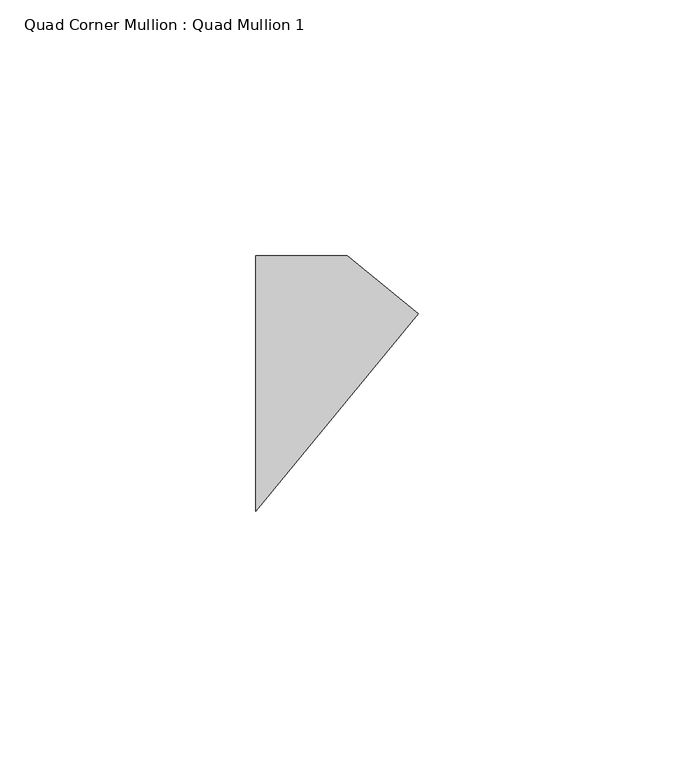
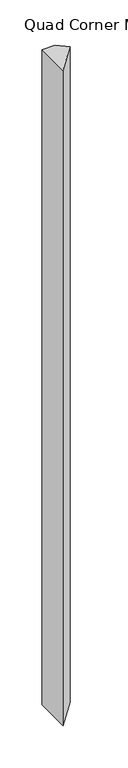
"""IFC4 building model written with IfcOpenShell, lengths in millimetres: member geometry, Quad Corner Mullion : Quad Mullion 1."""

import ifcopenshell
import ifcopenshell.guid

model = None  # the IFC model being written
_history = None  # IfcOwnerHistory: only IFC2X3 demands one
_inside = {}  # id of a spatial element -> (the spatial element, [elements in it])
_under = {}  # id of a project, library or spatial element -> (it, [spatial elements below it])
_declared = {}  # id of a project -> (the project, [libraries it declares])
_typed = {}  # id of a type object -> (the type object, [elements of that type])
_made_of = {}  # id of a material, layer set ... -> (it, [elements and type objects made of it])


def new_model(schema):
    """Start an empty IFC model of exactly this schema.

    Asked for "IFC4X3", IfcOpenShell would pick the latest addendum, in which some entities
    have other attributes; the version numbers below select the first issue.
    IFC2X3 requires an IfcOwnerHistory on every rooted entity: one is made here for all.
    """
    global model, _history
    if schema == "IFC4X3":
        model = ifcopenshell.file(schema_version=(4, 3, 0, 0))
    else:
        model = ifcopenshell.file(schema=schema)
    _inside.clear()
    _under.clear()
    _declared.clear()
    _typed.clear()
    _made_of.clear()
    _history = None
    if model.schema == "IFC2X3":
        org = make("IfcOrganization", Name="unknown")
        user = make(
            "IfcPersonAndOrganization",
            ThePerson=make("IfcPerson", FamilyName="unknown"),
            TheOrganization=org,
        )
        app = make(
            "IfcApplication",
            ApplicationDeveloper=org,
            Version="unknown",
            ApplicationFullName="unknown",
            ApplicationIdentifier="unknown",
        )
        _history = make(
            "IfcOwnerHistory",
            OwningUser=user,
            OwningApplication=app,
            ChangeAction="ADDED",
            CreationDate=0,
        )
    return model


def make(cls, **values):
    """One entity of the class cls with the attributes given. An attribute that is None is left unset."""
    return model.create_entity(
        cls, **{name: value for name, value in values.items() if value is not None}
    )


def rooted(cls, **values):
    """An entity with a GlobalId (a new one), such as an element, a storey or a relation."""
    return make(cls, GlobalId=ifcopenshell.guid.new(), OwnerHistory=_history, **values)


def si_unit(unit_type, name, prefix=None):
    """IfcSIUnit, for example si_unit("LENGTHUNIT", "METRE", prefix="MILLI")."""
    return make("IfcSIUnit", UnitType=unit_type, Prefix=prefix, Name=name)


def assignment(units):
    """IfcUnitAssignment: the units of a project."""
    return None if units is None else make("IfcUnitAssignment", Units=units)


def point(xyz):
    """IfcCartesianPoint."""
    return None if xyz is None else make("IfcCartesianPoint", Coordinates=xyz)


def direction(xyz):
    """IfcDirection."""
    return None if xyz is None else make("IfcDirection", DirectionRatios=xyz)


def frame(location, z_axis=None, x_axis=None):
    """IfcAxis2Placement3D, a coordinate frame: its origin and axes. An axis left out is left unset."""
    return make(
        "IfcAxis2Placement3D",
        Location=point(location),
        Axis=direction(z_axis),
        RefDirection=direction(x_axis),
    )


def origin():
    """The frame at (0, 0, 0) with its axes left unset."""
    return frame((0.0, 0.0, 0.0))


def place(relative_to, where):
    """IfcLocalPlacement: puts the frame where relative to a parent placement (None: the world)."""
    return make(
        "IfcLocalPlacement", PlacementRelTo=relative_to, RelativePlacement=where
    )


def context(
    kind, dimensions, precision=None, world=None, true_north=None, identifier=None
):
    """IfcGeometricRepresentationContext, for example the 3D "Model" context."""
    return make(
        "IfcGeometricRepresentationContext",
        ContextIdentifier=identifier,
        ContextType=kind,
        CoordinateSpaceDimension=dimensions,
        Precision=precision,
        WorldCoordinateSystem=world,
        TrueNorth=true_north,
    )


def project(units=None, contexts=None):
    """IfcProject with its units and contexts."""
    return rooted(
        "IfcProject",
        Name="project",
        RepresentationContexts=contexts,
        UnitsInContext=assignment(units),
    )


def spatial(cls, under=None, at=None, **own):
    """A site, building, storey or space (cls), placed at a placement, below another one or the project."""
    s = rooted(cls, ObjectPlacement=at, **own)
    if under is not None:
        _under.setdefault(under.id(), (under, []))[1].append(s)
    return s


def polyline(points):
    """IfcPolyline through the points."""
    return make("IfcPolyline", Points=[point(p) for p in points])


def outline(outer, holes=None, kind="AREA"):
    """IfcArbitraryClosedProfileDef: a profile drawn as a closed curve; with holes, ...WithVoids."""
    if holes is None:
        return make("IfcArbitraryClosedProfileDef", ProfileType=kind, OuterCurve=outer)
    return make(
        "IfcArbitraryProfileDefWithVoids",
        ProfileType=kind,
        OuterCurve=outer,
        InnerCurves=holes,
    )


def extrude(swept, where, along, depth):
    """IfcExtrudedAreaSolid: the profile swept, set in the frame where, extruded along a direction by depth."""
    return make(
        "IfcExtrudedAreaSolid",
        SweptArea=swept,
        Position=where,
        ExtrudedDirection=direction(along),
        Depth=depth,
    )


def shape(context_of_items, identifier, shape_type, items):
    """IfcShapeRepresentation: the items that make up one representation, for example the "Body"."""
    return make(
        "IfcShapeRepresentation",
        ContextOfItems=context_of_items,
        RepresentationIdentifier=identifier,
        RepresentationType=shape_type,
        Items=items,
    )


def source(mapping_origin, context_of_items, identifier, shape_type, items):
    """IfcRepresentationMap: a shape defined once, which mapped items show again and again."""
    return make(
        "IfcRepresentationMap",
        MappingOrigin=mapping_origin,
        MappedRepresentation=shape(context_of_items, identifier, shape_type, items),
    )


def transform(
    local_origin,
    x_axis=None,
    y_axis=None,
    z_axis=None,
    scale=None,
    scale2=None,
    scale3=None,
    uniform=True,
):
    """IfcCartesianTransformationOperator3D, or its non-uniform kind. x_axis, y_axis, z_axis: its Axis1, 2, 3."""
    if uniform:
        return make(
            "IfcCartesianTransformationOperator3D",
            Axis1=direction(x_axis),
            Axis2=direction(y_axis),
            LocalOrigin=point(local_origin),
            Scale=scale,
            Axis3=direction(z_axis),
        )
    return make(
        "IfcCartesianTransformationOperator3DnonUniform",
        Axis1=direction(x_axis),
        Axis2=direction(y_axis),
        LocalOrigin=point(local_origin),
        Scale=scale,
        Axis3=direction(z_axis),
        Scale2=scale2,
        Scale3=scale3,
    )


def mapped(mapping_source, mapping_target):
    """IfcMappedItem: shows the shape of a source again, moved by a transform."""
    return make(
        "IfcMappedItem", MappingSource=mapping_source, MappingTarget=mapping_target
    )


def made_of(thing, what):
    """Note that an element or type object is made of a material, layer set ...; save() writes the relation."""
    if what is not None:
        _made_of.setdefault(what.id(), (what, []))[1].append(thing)
    return thing


def element(
    cls,
    number,
    at=None,
    inside=None,
    cuts=None,
    type_object=None,
    material=None,
    context=None,
    identifier="Body",
    shape_type=None,
    held_by="IfcProductDefinitionShape",
    body=None,
    shapes=None,
    **own,
):
    """One element of the class cls, such as IfcWall. Its Tag is "e" and its number.

    at: its placement. inside: the storey or other place that contains it. cuts: it is an
    opening in that element (IfcRelVoidsElement). A single representation is given by context,
    identifier, shape_type and body (its items); several are given by shapes. held_by: the class
    of the entity that holds the representations. save() writes the other relations.
    """
    e = rooted(cls, Tag="e%d" % number, ObjectPlacement=at, **own)
    if body is not None:
        shapes = [shape(context, identifier, shape_type, body)]
    if shapes is not None:
        e.Representation = make(held_by, Representations=shapes)
    if inside is not None:
        _inside.setdefault(inside.id(), (inside, []))[1].append(e)
    if cuts is not None:
        rooted(
            "IfcRelVoidsElement", RelatingBuildingElement=cuts, RelatedOpeningElement=e
        )
    if type_object is not None:
        _typed.setdefault(type_object.id(), (type_object, []))[1].append(e)
    return made_of(e, material)


def aggregate(whole, parts):
    """IfcRelAggregates: a whole, such as a stair, and the parts it consists of."""
    return rooted("IfcRelAggregates", RelatingObject=whole, RelatedObjects=parts)


def save(model, path):
    """Write the relations noted so far, then the file.

    IfcRelAggregates (storeys below a building ...), IfcRelContainedInSpatialStructure (elements
    in a storey), IfcRelDefinesByType, IfcRelAssociatesMaterial and IfcRelDeclares: one each for
    every whole, place, type object, material and project.
    """
    for whole, parts in _under.values():
        aggregate(whole, parts)
    for where, things in _inside.values():
        rooted(
            "IfcRelContainedInSpatialStructure",
            RelatedElements=things,
            RelatingStructure=where,
        )
    for kind, things in _typed.values():
        rooted("IfcRelDefinesByType", RelatedObjects=things, RelatingType=kind)
    for what, things in _made_of.values():
        rooted("IfcRelAssociatesMaterial", RelatedObjects=things, RelatingMaterial=what)
    for by, libraries in _declared.values():
        rooted("IfcRelDeclares", RelatingContext=by, RelatedDefinitions=libraries)
    model.write(path)


def quad_corner_mullion_quad_mullion_1_07ab40ff(model_context):
    return source(origin(), model_context, "Body", "SweptSolid", [
        extrude(outline(polyline([(22.8068923, 13.6086231), (-8.963758, -25.0), (-8.963758, 25.0), (8.963758, 25.0), (22.8068923, 13.6086231)])), frame((0.0, 0.0, -950.0), z_axis=(0.0, 0.0, 1.0), x_axis=(1.0, 0.0, 0.0)), (0.0, 0.0, 1.0), 950.0),
    ])


if __name__ == "__main__":
    model = new_model("IFC4")
    model_context = context("Model", 3, world=origin())
    ifc_project = project(units=[si_unit("LENGTHUNIT", "METRE", prefix="MILLI")], contexts=[model_context])
    site = spatial("IfcSite", under=ifc_project)
    building = spatial("IfcBuilding", under=site)
    placement = place(None, origin())
    quad_corner_mullion_quad_mullion_1_shape = quad_corner_mullion_quad_mullion_1_07ab40ff(model_context)
    element("IfcMember", 1, ObjectType="Quad Corner Mullion : Quad Mullion 1", at=placement, inside=building, context=model_context, shape_type="MappedRepresentation", body=[
        mapped(quad_corner_mullion_quad_mullion_1_shape, transform((0.0, 0.0, 0.0), x_axis=(1.0, 0.0, 0.0), y_axis=(0.0, 1.0, 0.0), z_axis=(0.0, 0.0, 1.0))),
    ])
    save(model, "model.ifc")
